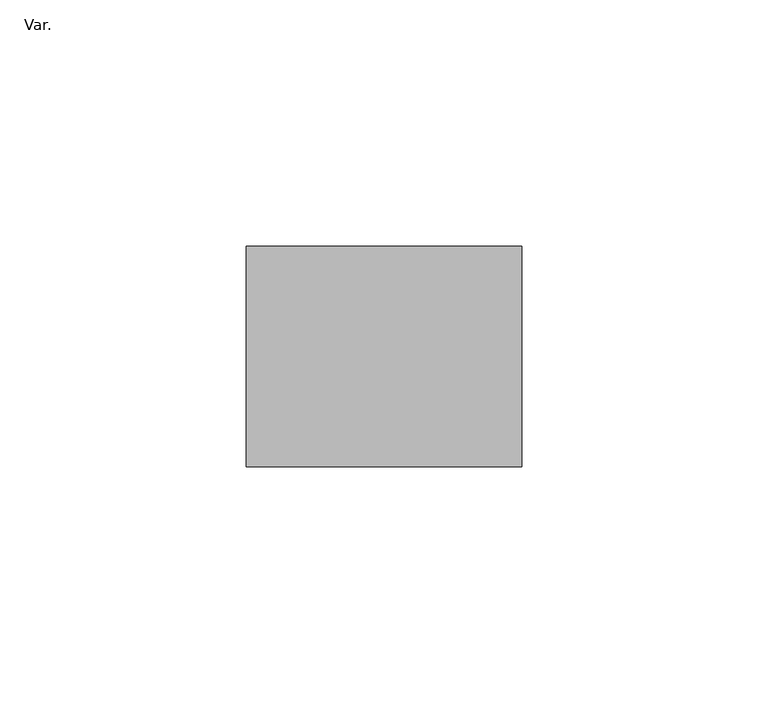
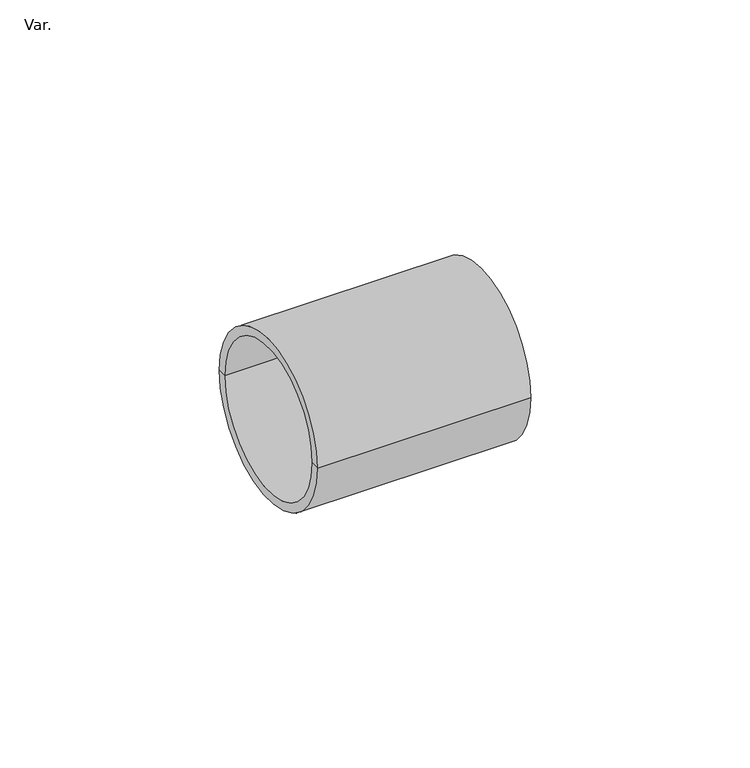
"""IFC4 building model written with IfcOpenShell, lengths in millimetres: pipe fitting geometry, Z_PAVCO_PVC QS_Coupler (nested) : Var.."""

from ifc_helpers import new_model, si_unit, frame, origin, place, context, project, spatial, polyline, circle_curve, source, transform, mapped, element, save
from ifc_brep_helpers import plane_surface, cylinder_surface, revolved_surface, advanced_brep


def var_f98a5855(model_context):
    return source(origin(), model_context, "Body", "AdvancedBrep", [
        advanced_brep(
        [(-30.0, -22.4, 0.0), (-30.0, 22.4, 0.0), (26.0, 22.4, 0.0), (26.0, -22.4, 0.0), (-30.0, -20.0, 0.0), (-30.0, 20.0, 0.0), (-4.0, -20.0, 0.0), (-4.0, 20.0, 0.0), (-4.0, -16.0, 0.0), (-4.0, 16.0, 0.0), (0.0, -16.0, 0.0), (0.0, 16.0, 0.0), (0.0, -20.0, 0.0), (0.0, 20.0, 0.0), (26.0, -20.0, 0.0), (26.0, 20.0, 0.0)],
        [
            (0, 1, circle_curve(frame((-30.0, 0.0, 0.0), z_axis=(1.0, 0.0, 0.0), x_axis=(0.0, 1.0, 0.0)), 22.4)),
            (1, 2),
            (2, 3, circle_curve(frame((26.0, 0.0, 0.0), z_axis=(-1.0, 0.0, 0.0), x_axis=(0.0, 1.0, 0.0)), 22.4)),
            (3, 0),
            (1, 0, circle_curve(frame((-30.0, 0.0, 0.0), z_axis=(1.0, 0.0, 0.0), x_axis=(0.0, 1.0, 0.0)), 22.4)),
            (3, 2, circle_curve(frame((26.0, 0.0, 0.0), z_axis=(-1.0, 0.0, 0.0), x_axis=(0.0, 1.0, 0.0)), 22.4)),
            (4, 5, circle_curve(frame((-30.0, 0.0, 0.0), z_axis=(1.0, 0.0, 0.0), x_axis=(0.0, 1.0, 0.0)), 20.0)),
            (5, 1),
            (0, 4),
            (5, 4, circle_curve(frame((-30.0, 0.0, 0.0), z_axis=(1.0, 0.0, 0.0), x_axis=(0.0, 1.0, 0.0)), 20.0)),
            (6, 7, circle_curve(frame((-4.0, 0.0, 0.0), z_axis=(1.0, 0.0, 0.0), x_axis=(0.0, 1.0, 0.0)), 20.0)),
            (7, 5),
            (4, 6),
            (7, 6, circle_curve(frame((-4.0, 0.0, 0.0), z_axis=(1.0, 0.0, 0.0), x_axis=(0.0, 1.0, 0.0)), 20.0)),
            (8, 9, circle_curve(frame((-4.0, 0.0, 0.0), z_axis=(1.0, 0.0, 0.0), x_axis=(0.0, 1.0, 0.0)), 16.0)),
            (9, 7),
            (6, 8),
            (9, 8, circle_curve(frame((-4.0, 0.0, 0.0), z_axis=(1.0, 0.0, 0.0), x_axis=(0.0, 1.0, 0.0)), 16.0)),
            (10, 11, circle_curve(frame((0.0, 0.0, 0.0), z_axis=(1.0, 0.0, 0.0), x_axis=(0.0, 1.0, 0.0)), 16.0)),
            (11, 9),
            (8, 10),
            (11, 10, circle_curve(frame((0.0, 0.0, 0.0), z_axis=(1.0, 0.0, 0.0), x_axis=(0.0, 1.0, 0.0)), 16.0)),
            (12, 13, circle_curve(frame((0.0, 0.0, 0.0), z_axis=(1.0, 0.0, 0.0), x_axis=(0.0, 1.0, 0.0)), 20.0)),
            (13, 11),
            (10, 12),
            (13, 12, circle_curve(frame((0.0, 0.0, 0.0), z_axis=(1.0, 0.0, 0.0), x_axis=(0.0, 1.0, 0.0)), 20.0)),
            (14, 15, circle_curve(frame((26.0, 0.0, 0.0), z_axis=(1.0, 0.0, 0.0), x_axis=(0.0, 1.0, 0.0)), 20.0)),
            (15, 13),
            (12, 14),
            (15, 14, circle_curve(frame((26.0, 0.0, 0.0), z_axis=(1.0, 0.0, 0.0), x_axis=(0.0, 1.0, 0.0)), 20.0)),
            (2, 15),
            (14, 3),
        ],
        [
            cylinder_surface(frame((-240.0, 0.0, 0.0), z_axis=(-1.0, 0.0, 0.0), x_axis=(0.0, 1.0, 0.0)), 22.4),
            plane_surface(frame((-30.0, 0.0, 0.0), z_axis=(-1.0, 0.0, 0.0), x_axis=(0.0, 1.0, 0.0))),
            revolved_surface(polyline([(-30.0, 20.0, 0.0), (-4.0, 20.0, 0.0)]), (-240.0, 0.0, 0.0), (-1.0, 0.0, 0.0)),
            plane_surface(frame((-4.0, 0.0, 0.0), z_axis=(-1.0, 0.0, 0.0), x_axis=(0.0, 1.0, 0.0))),
            revolved_surface(polyline([(-4.0, 16.0, 0.0), (0.0, 16.0, 0.0)]), (-240.0, 0.0, 0.0), (-1.0, 0.0, 0.0)),
            plane_surface(frame((0.0, 0.0, 0.0), z_axis=(1.0, 0.0, 0.0), x_axis=(0.0, 1.0, 0.0))),
            revolved_surface(polyline([(0.0, 20.0, 0.0), (26.0, 20.0, 0.0)]), (-240.0, 0.0, 0.0), (-1.0, 0.0, 0.0)),
            plane_surface(frame((26.0, 0.0, 0.0), z_axis=(1.0, 0.0, 0.0), x_axis=(0.0, 1.0, 0.0))),
        ],
        [
            (0, [[1, 2, 3, 4]]),
            (0, [[5, -4, 6, -2]]),
            (1, [[7, 8, -1, 9]]),
            (1, [[10, -9, -5, -8]]),
            (2, [[11, 12, -7, 13]]),
            (2, [[14, -13, -10, -12]]),
            (3, [[15, 16, -11, 17]]),
            (3, [[18, -17, -14, -16]]),
            (4, [[19, 20, -15, 21]]),
            (4, [[22, -21, -18, -20]]),
            (5, [[23, 24, -19, 25]]),
            (5, [[26, -25, -22, -24]]),
            (6, [[27, 28, -23, 29]]),
            (6, [[30, -29, -26, -28]]),
            (7, [[-3, 31, -27, 32]]),
            (7, [[-6, -32, -30, -31]]),
        ],
    ),
    ])


if __name__ == "__main__":
    model = new_model("IFC4")
    model_context = context("Model", 3, world=origin())
    ifc_project = project(units=[si_unit("LENGTHUNIT", "METRE", prefix="MILLI")], contexts=[model_context])
    site = spatial("IfcSite", under=ifc_project)
    building = spatial("IfcBuilding", under=site)
    placement = place(None, origin())
    var_shape = var_f98a5855(model_context)
    element("IfcPipeFitting", 1, ObjectType="Z_PAVCO_PVC QS_Coupler (nested) : Var.", at=placement, inside=building, context=model_context, shape_type="MappedRepresentation", body=[
        mapped(var_shape, transform((0.0, 0.0, 0.0), x_axis=(1.0, 0.0, 0.0), y_axis=(0.0, 1.0, 0.0), z_axis=(0.0, 0.0, 1.0))),
    ])
    save(model, "model.ifc")
